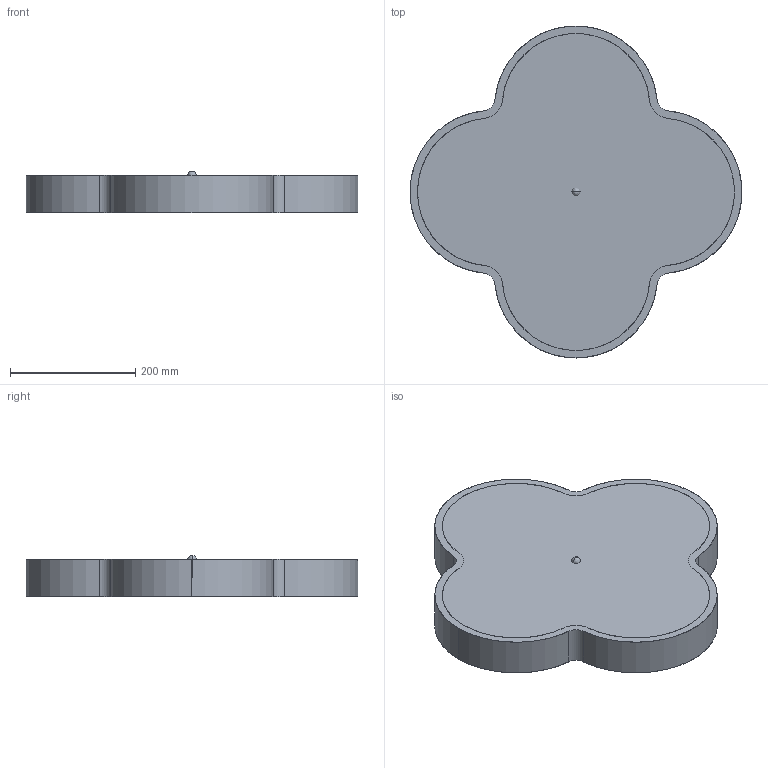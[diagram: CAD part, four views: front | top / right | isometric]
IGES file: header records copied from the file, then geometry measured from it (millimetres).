
Start section: SolidWorks IGES file using analytic representation for surfaces
Global section: file name: F:\燠隴矨\3D\2025-12\Aethel Cloud Travertine Ceiling Lamp-D53cm.IGS,15; native system: HSolidWorks 2022; preprocessor: SolidWorks 2022; author: MyPC; date: 251229.112928; units: millimetre
Bounding box: 530 x 530 x 66.12 mm (x, y, z)
Surface area: 874870.1 mm2 (no closed solid volume)
Topology: 0 solids, 0 shells, 45 faces, 952 edges, 951 vertices
Faces by surface type: revolution 38, bspline 7
